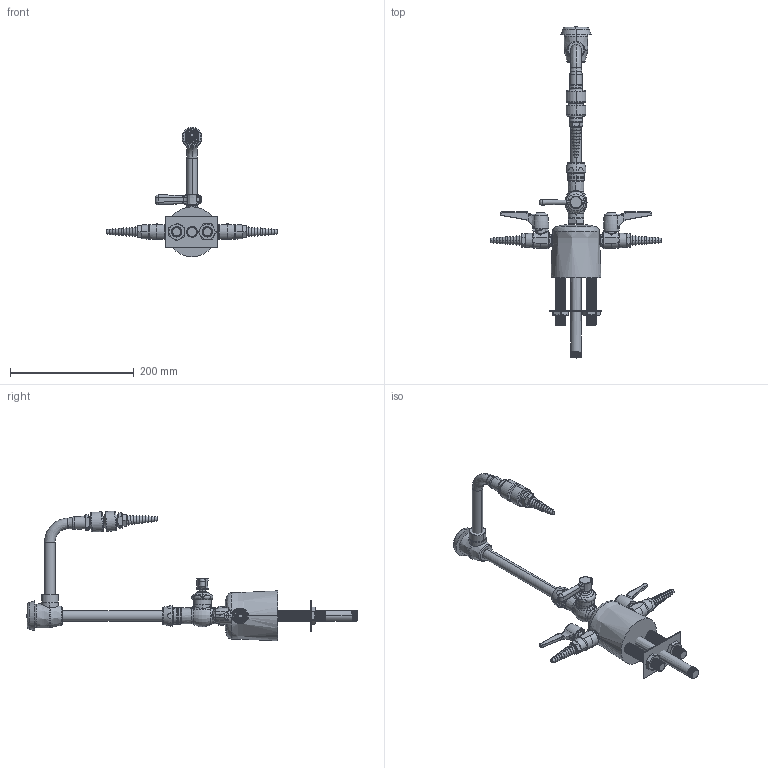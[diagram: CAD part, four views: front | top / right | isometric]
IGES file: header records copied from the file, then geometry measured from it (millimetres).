
Start section:  PTC IGES file: LCF1-BA-B3B3.igs
Global section: file name: LCF1-BA-B3B3.igs; native system: Creo Parametric by PTC Inc.; preprocessor: 2014500; author: usch_engrender; organization: Unknown; date: 20160205.143016; units: inch
Bounding box: 276.86 x 536.51 x 209.59 mm (x, y, z)
Surface area: 154117.6 mm2 (no closed solid volume)
Topology: 0 solids, 107 shells, 1087 faces, 3058 edges, 2012 vertices
Faces by surface type: revolution 700, bspline 387
